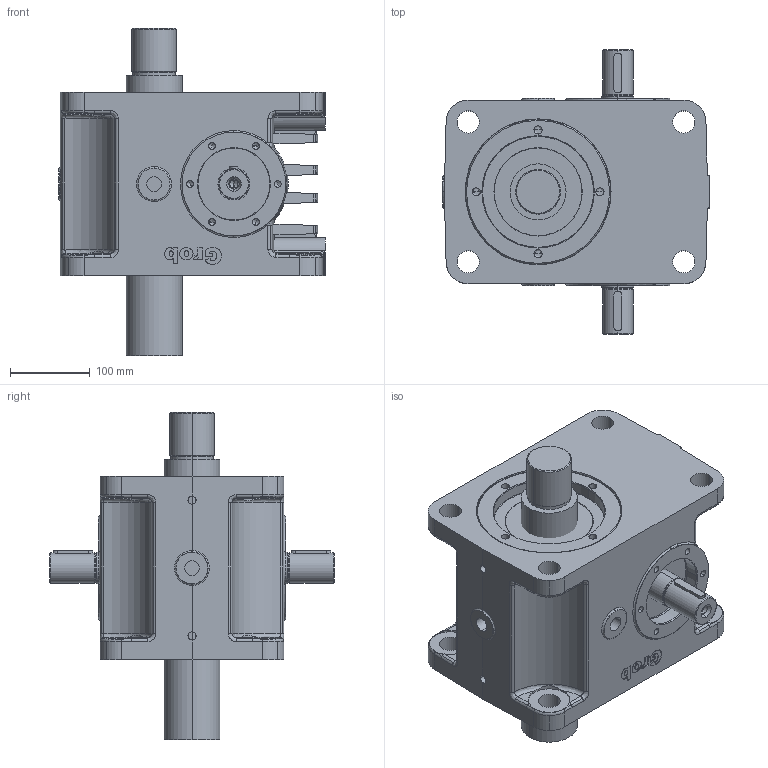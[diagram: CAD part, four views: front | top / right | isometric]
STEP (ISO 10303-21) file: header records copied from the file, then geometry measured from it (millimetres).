
FILE_DESCRIPTION(('STEP AP203'),'1');
FILE_NAME('hmc20-gn-kd-kd-1f-ge-0100-0000-tr70x12-b-0-o-0.stp','2025-08-19T11:51:39',('TraceParts'),('TraceParts S.A.'),'Spatial InterOp 3D',' ',' ');
FILE_SCHEMA(('CONFIG_CONTROL_DESIGN'));
Length unit declared in the file: millimetre
Products named in the file (1): 1
Bounding box: 334 x 356 x 410 mm (x, y, z)
Volume: 16257624.1 mm3; surface area: 844281.9 mm2
Topology: 7 solids, 7 shells, 756 faces, 1928 edges, 1194 vertices
Faces by surface type: cylinder 314, plane 169, bspline 106, cone 104, torus 63
Entity records: 25084 total; most frequent: CARTESIAN_POINT 7097, ORIENTED_EDGE 3760, DIRECTION 3757, EDGE_CURVE 1880, AXIS2_PLACEMENT_3D 1493, VERTEX_POINT 1194, EDGE_LOOP 836, LINE 771
